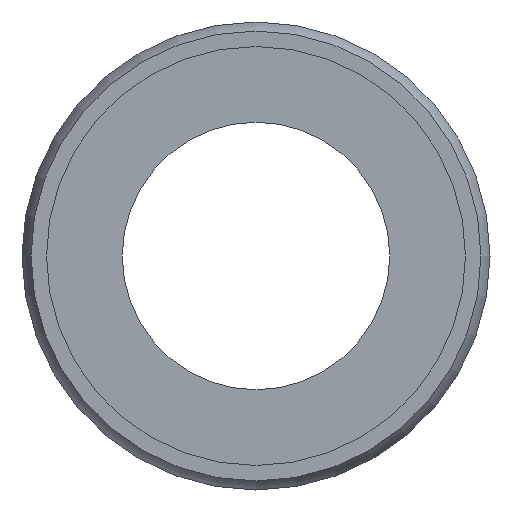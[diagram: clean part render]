
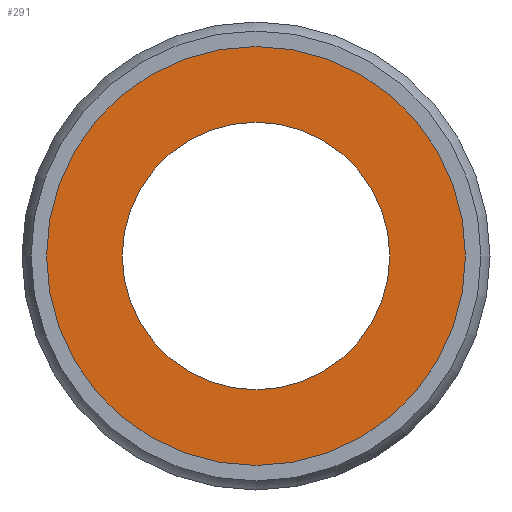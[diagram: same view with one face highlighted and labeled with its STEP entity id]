
A CAD part, left-side view. The second image highlights one B-rep face of the part: STEP entity #291.
In plain terms, the highlighted planar face has unit normal (-1, 0, 0).
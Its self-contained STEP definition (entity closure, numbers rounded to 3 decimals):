
#257=CARTESIAN_POINT('',(0.1,0.0,9.4));
#258=VERTEX_POINT('',#257);
#259=CARTESIAN_POINT('',(0.1,0.0,0.));
#260=DIRECTION('',(-1.0,0.0,0.0));
#261=DIRECTION('',(0.0,0.0,1.0));
#262=AXIS2_PLACEMENT_3D('',#259,#260,#261);
#263=CIRCLE('',#262,9.4);
#264=EDGE_CURVE('',#258,#258,#263,.T.);
#272=CARTESIAN_POINT('',(0.1,0.0,7.7));
#273=DIRECTION('',(-1.0,0.0,0.0));
#274=DIRECTION('',(0.0,0.0,1.0));
#275=AXIS2_PLACEMENT_3D('',#272,#273,#274);
#276=PLANE('',#275);
#277=ORIENTED_EDGE('',*,*,#264,.T.);
#278=EDGE_LOOP('',(#277));
#279=FACE_OUTER_BOUND('',#278,.T.);
#280=CARTESIAN_POINT('',(0.1,0.0,6.));
#281=VERTEX_POINT('',#280);
#282=CARTESIAN_POINT('',(0.1,0.0,0.));
#283=DIRECTION('',(-1.0,0.0,0.0));
#284=DIRECTION('',(0.0,0.0,1.0));
#285=AXIS2_PLACEMENT_3D('',#282,#283,#284);
#286=CIRCLE('',#285,6.);
#287=EDGE_CURVE('',#281,#281,#286,.T.);
#288=ORIENTED_EDGE('',*,*,#287,.F.);
#289=EDGE_LOOP('',(#288));
#290=FACE_BOUND('',#289,.T.);
#291=ADVANCED_FACE('',(#279,#290),#276,.T.);
